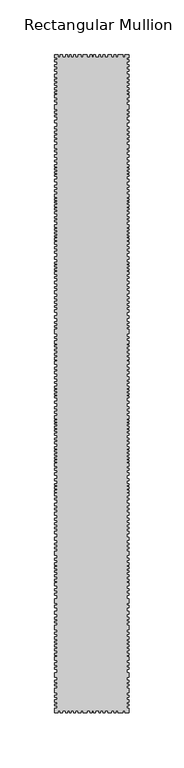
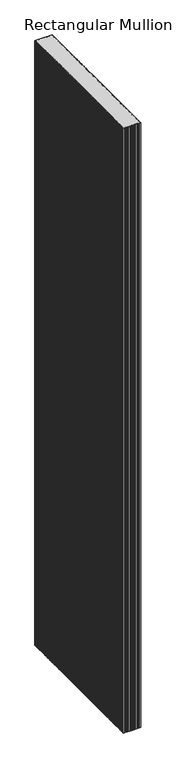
"""IFC4 building model written with IfcOpenShell, lengths in millimetres: member geometry, Rectangular Mullion : DucoSun Cubic Design louvre 600."""

from ifc_helpers import new_model, si_unit, frame, origin, place, context, project, spatial, polyline, outline, extrude, source, transform, mapped, element, save


def rectangular_mullion_c1c5a9d6(model_context):
    return source(origin(), model_context, "Body", "SweptSolid", [
        extrude(outline(polyline([(0.0, 597.3782451), (-2.0, 597.3782451), (-2.0, 595.4241521), (0.0, 595.4241521), (0.0, 593.6532553), (-2.0, 593.6532553), (-2.0, 590.9460223), (0.0, 590.9460223), (0.0, 588.9105087), (-2.0, 588.9105087), (-2.0, 586.7121541), (0.0, 586.7121541), (0.0, 585.0023227), (-2.0, 585.0023227), (-2.0, 582.3561551), (0.0, 582.3561551), (0.0, 579.3843053), (-2.0, 579.3843053), (-2.0, 577.8917893), (0.0, 577.8917893), (0.0, 575.8425117), (-2.0, 575.8425117), (-2.0, 573.8680636), (0.0, 573.8680636), (0.0, 572.1582322), (-2.0, 572.1582322), (-2.0, 570.0820083), (0.0, 570.0820083), (0.0, 568.3111116), (-2.0, 568.3111116), (-2.0, 566.4995045), (0.0, 566.4995045), (0.0, 565.0713495), (-2.0, 565.0713495), (-2.0, 563.4577392), (0.0, 563.4577392), (0.0, 561.0328231), (-2.0, 561.0328231), (-2.0, 558.5725067), (0.0, 558.5725067), (0.0, 557.0325964), (-2.0, 557.0325964), (-2.0, 554.5014796), (0.0, 554.5014796), (0.0, 550.4127524), (-2.0, 550.4127524), (-2.0, 548.4126391), (0.0, 548.4126391), (0.0, 546.8373286), (-2.0, 546.8373286), (-2.0, 544.9965163), (0.0, 544.9965163), (0.0, 543.3504053), (-2.0, 543.3504053), (-2.0, 540.3767855), (0.0, 540.3767855), (0.0, 537.9545244), (-2.0, 537.9545244), (-2.0, 534.5552168), (0.0, 534.5552168), (0.0, 532.5197032), (-2.0, 532.5197032), (-2.0, 530.239928), (0.0, 530.239928), (0.0, 528.6929377), (-2.0, 528.6929377), (-2.0, 526.4335177), (0.0, 526.4335177), (0.0, 524.5608452), (-2.0, 524.5608452), (-2.0, 522.6271073), (0.0, 522.6271073), (0.0, 520.5508835), (-2.0, 520.5508835), (-2.0, 518.0064916), (0.0, 518.0064916), (0.0, 514.9328661), (-2.0, 514.9328661), (-2.0, 512.9177077), (0.0, 512.9177077), (0.0, 511.4114277), (-2.0, 511.4114277), (-2.0, 508.9688114), (0.0, 508.9688114), (0.0, 506.7118273), (-2.0, 506.7118273), (-2.0, 503.8852623), (0.0, 503.8852623), (0.0, 502.4316003), (-2.0, 502.4316003), (-2.0, 499.9011516), (0.0, 499.9011516), (0.0, 497.8552569), (-2.0, 497.8552569), (-2.0, 496.6169522), (0.0, 496.6169522), (0.0, 495.0825312), (-2.0, 495.0825312), (-2.0, 493.4673512), (0.0, 493.4673512), (0.0, 492.0675286), (-2.0, 492.0675286), (-2.0, 490.5869469), (0.0, 490.5869469), (0.0, 489.1602046), (-2.0, 489.1602046), (-2.0, 486.3310055), (0.0, 486.3310055), (0.0, 484.2608252), (-2.0, 484.2608252), (-2.0, 481.1919832), (0.0, 481.1919832), (0.0, 479.2537672), (-2.0, 479.2537672), (-2.0, 476.9360418), (0.0, 476.9360418), (0.0, 475.0004598), (-2.0, 475.0004598), (-2.0, 472.9007258), (0.0, 472.9007258), (0.0, 470.1010805), (-2.0, 470.1010805), (-2.0, 468.8089365), (0.0, 468.8089365), (0.0, 467.3014351), (-2.0, 467.3014351), (-2.0, 466.0362108), (0.0, 466.0362108), (0.0, 465.0401831), (-2.0, 465.0401831), (-2.0, 463.2096458), (0.0, 463.2096458), (0.0, 461.6483051), (-2.0, 461.6483051), (-2.0, 460.1408038), (0.0, 460.1408038), (0.0, 458.6063828), (-2.0, 458.6063828), (-2.0, 457.0719618), (0.0, 457.0719618), (0.0, 455.0799064), (-2.0, 455.0799064), (-2.0, 452.3762692), (0.0, 452.3762692), (0.0, 450.8903036), (-2.0, 450.8903036), (-2.0, 449.1257194), (0.0, 449.1257194), (0.0, 447.6087962), (-2.0, 447.6087962), (-2.0, 444.8535683), (0.0, 444.8535683), (0.0, 442.7484504), (-2.0, 442.7484504), (-2.0, 441.4172729), (0.0, 441.4172729), (0.0, 439.9622649), (-2.0, 439.9622649), (-2.0, 438.3524688), (0.0, 438.3524688), (0.0, 436.8355456), (-2.0, 436.8355456), (-2.0, 435.1947919), (0.0, 435.1947919), (0.0, 433.9255296), (-2.0, 433.9255296), (-2.0, 432.5014792), (0.0, 432.5014792), (0.0, 431.1083865), (-2.0, 431.1083865), (-2.0, 429.6843361), (0.0, 429.6843361), (0.0, 427.0529387), (-2.0, 427.0529387), (-2.0, 424.9787784), (0.0, 424.9787784), (0.0, 423.0284485), (-2.0, 423.0284485), (-2.0, 420.7995001), (0.0, 420.7995001), (0.0, 418.8182126), (-2.0, 418.8182126), (-2.0, 415.6914933), (0.0, 415.6914933), (0.0, 413.4935025), (-2.0, 413.4935025), (-2.0, 410.954978), (0.0, 410.954978), (0.0, 409.4070971), (-2.0, 409.4070971), (-2.0, 408.1378348), (0.0, 408.1378348), (0.0, 406.4970812), (-2.0, 406.4970812), (-2.0, 404.8253698), (0.0, 404.8253698), (0.0, 403.3394042), (-2.0, 403.3394042), (-2.0, 402.0391843), (0.0, 402.0391843), (0.0, 400.0578969), (-2.0, 400.0578969), (-2.0, 397.6741604), (0.0, 397.6741604), (0.0, 396.0953219), (-2.0, 396.0953219), (-2.0, 393.3091364), (0.0, 393.3091364), (0.0, 391.0182728), (-2.0, 391.0182728), (-2.0, 388.572621), (0.0, 388.572621), (0.0, 387.1485707), (-2.0, 387.1485707), (-2.0, 385.0124951), (0.0, 385.0124951), (0.0, 382.1643944), (-2.0, 382.1643944), (-2.0, 379.3782089), (0.0, 379.3782089), (0.0, 377.427879), (-2.0, 377.427879), (-2.0, 375.4156339), (0.0, 375.4156339), (0.0, 373.6510498), (-2.0, 373.6510498), (-2.0, 371.1744404), (0.0, 371.1744404), (0.0, 369.6884748), (-2.0, 369.6884748), (-2.0, 367.5523993), (0.0, 367.5523993), (0.0, 365.4163237), (-2.0, 365.4163237), (-2.0, 362.1967316), (0.0, 362.1967316), (0.0, 359.5343765), (-2.0, 359.5343765), (-2.0, 356.7791486), (0.0, 356.7791486), (0.0, 355.0764797), (-2.0, 355.0764797), (-2.0, 352.9404041), (0.0, 352.9404041), (0.0, 351.6092266), (-2.0, 351.6092266), (-2.0, 349.5660239), (0.0, 349.5660239), (0.0, 345.512038), (-2.0, 345.512038), (-2.0, 343.0030092), (0.0, 343.0030092), (0.0, 341.3312979), (-2.0, 341.3312979), (-2.0, 339.0404342), (0.0, 339.0404342), (0.0, 336.5638249), (-2.0, 336.5638249), (-2.0, 335.015944), (0.0, 335.015944), (0.0, 333.5609361), (-2.0, 333.5609361), (-2.0, 331.5796486), (0.0, 331.5796486), (0.0, 330.0627254), (-2.0, 330.0627254), (-2.0, 327.8337769), (0.0, 327.8337769), (0.0, 326.1620656), (-2.0, 326.1620656), (-2.0, 324.0259901), (0.0, 324.0259901), (0.0, 322.0756602), (-2.0, 322.0756602), (-2.0, 320.6516099), (0.0, 320.6516099), (0.0, 317.7415939), (-2.0, 317.7415939), (-2.0, 315.2030693), (0.0, 315.2030693), (0.0, 313.1908242), (-2.0, 313.1908242), (-2.0, 311.2404944), (0.0, 311.2404944), (0.0, 309.1353764), (-2.0, 309.1353764), (-2.0, 306.2563181), (0.0, 306.2563181), (0.0, 303.7186411), (-2.0, 303.7186411), (-2.0, 301.7889994), (0.0, 301.7889994), (0.0, 300.3353374), (-2.0, 300.3353374), (-2.0, 297.8048887), (0.0, 297.8048887), (0.0, 295.758994), (-2.0, 295.758994), (-2.0, 294.5206893), (0.0, 294.5206893), (0.0, 292.9862683), (-2.0, 292.9862683), (-2.0, 291.3710883), (0.0, 291.3710883), (0.0, 289.9712657), (-2.0, 289.9712657), (-2.0, 288.490684), (0.0, 288.490684), (0.0, 287.0639417), (-2.0, 287.0639417), (-2.0, 284.2347426), (0.0, 284.2347426), (0.0, 282.1645623), (-2.0, 282.1645623), (-2.0, 279.0957203), (0.0, 279.0957203), (0.0, 277.1575043), (-2.0, 277.1575043), (-2.0, 274.8397789), (0.0, 274.8397789), (0.0, 272.9041969), (-2.0, 272.9041969), (-2.0, 270.8044629), (0.0, 270.8044629), (0.0, 268.0048176), (-2.0, 268.0048176), (-2.0, 266.7126736), (0.0, 266.7126736), (0.0, 265.2051722), (-2.0, 265.2051722), (-2.0, 263.9399479), (0.0, 263.9399479), (0.0, 262.9439202), (-2.0, 262.9439202), (-2.0, 261.1133829), (0.0, 261.1133829), (0.0, 259.5520422), (-2.0, 259.5520422), (-2.0, 258.0445409), (0.0, 258.0445409), (0.0, 256.5101199), (-2.0, 256.5101199), (-2.0, 254.9756989), (0.0, 254.9756989), (0.0, 252.9836435), (-2.0, 252.9836435), (-2.0, 250.2800063), (0.0, 250.2800063), (0.0, 248.7940407), (-2.0, 248.7940407), (-2.0, 247.0294565), (0.0, 247.0294565), (0.0, 245.5125333), (-2.0, 245.5125333), (-2.0, 242.7573054), (0.0, 242.7573054), (0.0, 240.6521875), (-2.0, 240.6521875), (-2.0, 239.32101), (0.0, 239.32101), (0.0, 237.866002), (-2.0, 237.866002), (-2.0, 236.2562059), (0.0, 236.2562059), (0.0, 234.7392827), (-2.0, 234.7392827), (-2.0, 233.098529), (0.0, 233.098529), (0.0, 231.8292667), (-2.0, 231.8292667), (-2.0, 230.4052163), (0.0, 230.4052163), (0.0, 229.0121236), (-2.0, 229.0121236), (-2.0, 227.5880732), (0.0, 227.5880732), (0.0, 224.9566758), (-2.0, 224.9566758), (-2.0, 222.8825155), (0.0, 222.8825155), (0.0, 220.9321856), (-2.0, 220.9321856), (-2.0, 218.7032372), (0.0, 218.7032372), (0.0, 216.7219497), (-2.0, 216.7219497), (-2.0, 213.5952304), (0.0, 213.5952304), (0.0, 211.3972396), (-2.0, 211.3972396), (-2.0, 208.8587151), (0.0, 208.8587151), (0.0, 207.3108342), (-2.0, 207.3108342), (-2.0, 206.0415719), (0.0, 206.0415719), (0.0, 204.4008183), (-2.0, 204.4008183), (-2.0, 202.7291069), (0.0, 202.7291069), (0.0, 201.2431413), (-2.0, 201.2431413), (-2.0, 199.9429214), (0.0, 199.9429214), (0.0, 197.961634), (-2.0, 197.961634), (-2.0, 195.5778975), (0.0, 195.5778975), (0.0, 193.999059), (-2.0, 193.999059), (-2.0, 191.2128735), (0.0, 191.2128735), (0.0, 188.9220099), (-2.0, 188.9220099), (-2.0, 186.4763581), (0.0, 186.4763581), (0.0, 185.0523078), (-2.0, 185.0523078), (-2.0, 182.9162322), (0.0, 182.9162322), (0.0, 180.0681315), (-2.0, 180.0681315), (-2.0, 177.281946), (0.0, 177.281946), (0.0, 175.3316161), (-2.0, 175.3316161), (-2.0, 173.319371), (0.0, 173.319371), (0.0, 171.5547869), (-2.0, 171.5547869), (-2.0, 169.0781775), (0.0, 169.0781775), (0.0, 167.5922119), (-2.0, 167.5922119), (-2.0, 165.4561364), (0.0, 165.4561364), (0.0, 163.3200608), (-2.0, 163.3200608), (-2.0, 160.1004687), (0.0, 160.1004687), (0.0, 157.4381136), (-2.0, 157.4381136), (-2.0, 154.6828857), (0.0, 154.6828857), (0.0, 152.9802168), (-2.0, 152.9802168), (-2.0, 150.8441412), (0.0, 150.8441412), (0.0, 149.5129637), (-2.0, 149.5129637), (-2.0, 147.469761), (0.0, 147.469761), (0.0, 143.4157751), (-2.0, 143.4157751), (-2.0, 140.9067463), (0.0, 140.9067463), (0.0, 139.235035), (-2.0, 139.235035), (-2.0, 136.9441713), (0.0, 136.9441713), (0.0, 134.467562), (-2.0, 134.467562), (-2.0, 132.9196811), (0.0, 132.9196811), (0.0, 131.4646731), (-2.0, 131.4646731), (-2.0, 129.4833857), (0.0, 129.4833857), (0.0, 127.9664625), (-2.0, 127.9664625), (-2.0, 125.737514), (0.0, 125.737514), (0.0, 124.0658027), (-2.0, 124.0658027), (-2.0, 121.9297272), (0.0, 121.9297272), (0.0, 119.9793973), (-2.0, 119.9793973), (-2.0, 118.555347), (0.0, 118.555347), (0.0, 115.645331), (-2.0, 115.645331), (-2.0, 113.1068064), (0.0, 113.1068064), (0.0, 111.0945613), (-2.0, 111.0945613), (-2.0, 109.1442315), (0.0, 109.1442315), (0.0, 107.0391135), (-2.0, 107.0391135), (-2.0, 104.0), (0.0, 104.0), (0.0, 100.0), (-2.0, 100.0), (-2.0, 97.8639244), (0.0, 97.8639244), (0.0, 95.7278489), (-2.0, 95.7278489), (-2.0, 92.5082567), (0.0, 92.5082567), (0.0, 89.8459017), (-2.0, 89.8459017), (-2.0, 87.0906738), (0.0, 87.0906738), (0.0, 85.3880049), (-2.0, 85.3880049), (-2.0, 83.2519293), (0.0, 83.2519293), (0.0, 81.9207518), (-2.0, 81.9207518), (-2.0, 79.8775491), (0.0, 79.8775491), (0.0, 75.8235632), (-2.0, 75.8235632), (-2.0, 73.3145343), (0.0, 73.3145343), (0.0, 71.642823), (-2.0, 71.642823), (-2.0, 69.3519594), (0.0, 69.3519594), (0.0, 66.8753501), (-2.0, 66.8753501), (-2.0, 65.3274692), (0.0, 65.3274692), (0.0, 63.8724612), (-2.0, 63.8724612), (-2.0, 61.8911738), (0.0, 61.8911738), (0.0, 60.3742505), (-2.0, 60.3742505), (-2.0, 58.1453021), (0.0, 58.1453021), (0.0, 56.4735908), (-2.0, 56.4735908), (-2.0, 54.3375153), (0.0, 54.3375153), (0.0, 52.3871854), (-2.0, 52.3871854), (-2.0, 50.963135), (0.0, 50.963135), (0.0, 48.0531191), (-2.0, 48.0531191), (-2.0, 45.5145945), (0.0, 45.5145945), (0.0, 43.5023494), (-2.0, 43.5023494), (-2.0, 41.5520195), (0.0, 41.5520195), (0.0, 39.4469016), (-2.0, 39.4469016), (-2.0, 36.4077881), (0.0, 36.4077881), (0.0, 32.4077881), (-2.0, 32.4077881), (-2.0, 29.6525602), (0.0, 29.6525602), (0.0, 27.9498913), (-2.0, 27.9498913), (-2.0, 25.8138157), (0.0, 25.8138157), (0.0, 24.4826382), (-2.0, 24.4826382), (-2.0, 22.4394355), (0.0, 22.4394355), (0.0, 18.3854496), (-2.0, 18.3854496), (-2.0, 15.8764207), (0.0, 15.8764207), (0.0, 14.2047094), (-2.0, 14.2047094), (-2.0, 11.9138458), (0.0, 11.9138458), (0.0, 9.4372364), (-2.0, 9.4372364), (-2.0, 7.8893556), (0.0, 7.8893556), (0.0, 6.4343476), (-2.0, 6.4343476), (-2.0, 4.0), (0.0, 4.0), (0.0, 0.0), (-3.5455586, 0.0), (-3.5455586, 2.0), (-5.372058, 2.0), (-5.372058, 0.0), (-10.0157006, 0.0), (-10.0157006, 2.0), (-12.1827337, 2.0), (-12.1827337, 0.0), (-13.6996569, 0.0), (-13.6996569, 2.0), (-16.0524358, 2.0), (-16.0524358, 0.0), (-19.1172399, 0.0), (-19.1172399, 2.0), (-21.9034254, 2.0), (-21.9034254, 0.0), (-23.6060943, 0.0), (-23.6060943, 2.0), (-25.9898308, 2.0), (-25.9898308, 0.0), (-27.4757964, 0.0), (-27.4757964, 2.0), (-30.5115322, 2.0), (-30.5115322, 0.0), (-32.2905711, 0.0), (-32.2905711, 2.0), (-34.0, 2.0), (-34.0, 0.0), (-35.8486488, 0.0), (-35.8486488, 2.0), (-38.2128978, 2.0), (-38.2128978, 0.0), (-41.9816511, 0.0), (-41.9816511, 2.0), (-44.0415908, 2.0), (-44.0415908, 0.0), (-46.7335575, 0.0), (-46.7335575, 2.0), (-49.0041729, 2.0), (-49.0041729, 0.0), (-50.8768453, 0.0), (-50.8768453, 2.0), (-52.9367851, 2.0), (-52.9367851, 0.0), (-54.2710642, 0.0), (-54.2710642, 2.0), (-56.3075955, 2.0), (-56.3075955, 0.0), (-57.8993671, 0.0), (-57.8993671, 2.0), (-60.9658683, 2.0), (-60.9658683, 0.0), (-62.9321744, 0.0), (-62.9321744, 2.0), (-64.8750721, 2.0), (-64.8750721, 0.0), (-68.0, 0.0), (-68.0, 4.0), (-66.0, 4.0), (-66.0, 6.4343476), (-68.0, 6.4343476), (-68.0, 7.8893556), (-66.0, 7.8893556), (-66.0, 9.4372364), (-68.0, 9.4372364), (-68.0, 11.9138458), (-66.0, 11.9138458), (-66.0, 14.2047094), (-68.0, 14.2047094), (-68.0, 15.8764207), (-66.0, 15.8764207), (-66.0, 18.3854496), (-68.0, 18.3854496), (-68.0, 22.4394355), (-66.0, 22.4394355), (-66.0, 24.4826382), (-68.0, 24.4826382), (-68.0, 25.8138157), (-66.0, 25.8138157), (-66.0, 27.9498913), (-68.0, 27.9498913), (-68.0, 29.6525602), (-66.0, 29.6525602), (-66.0, 32.4077881), (-68.0, 32.4077881), (-68.0, 36.4077881), (-66.0, 36.4077881), (-66.0, 39.4469016), (-68.0, 39.4469016), (-68.0, 41.5520195), (-66.0, 41.5520195), (-66.0, 43.5023494), (-68.0, 43.5023494), (-68.0, 45.5145945), (-66.0, 45.5145945), (-66.0, 48.0531191), (-68.0, 48.0531191), (-68.0, 50.963135), (-66.0, 50.963135), (-66.0, 52.3871854), (-68.0, 52.3871854), (-68.0, 54.3375153), (-66.0, 54.3375153), (-66.0, 56.4735908), (-68.0, 56.4735908), (-68.0, 58.1453021), (-66.0, 58.1453021), (-66.0, 60.3742505), (-68.0, 60.3742505), (-68.0, 61.8911738), (-66.0, 61.8911738), (-66.0, 63.8724612), (-68.0, 63.8724612), (-68.0, 65.3274692), (-66.0, 65.3274692), (-66.0, 66.8753501), (-68.0, 66.8753501), (-68.0, 69.3519594), (-66.0, 69.3519594), (-66.0, 71.642823), (-68.0, 71.642823), (-68.0, 73.3145343), (-66.0, 73.3145343), (-66.0, 75.8235632), (-68.0, 75.8235632), (-68.0, 79.8775491), (-66.0, 79.8775491), (-66.0, 81.9207518), (-68.0, 81.9207518), (-68.0, 83.2519293), (-66.0, 83.2519293), (-66.0, 85.3880049), (-68.0, 85.3880049), (-68.0, 87.0906738), (-66.0, 87.0906738), (-66.0, 89.8459017), (-68.0, 89.8459017), (-68.0, 92.5082567), (-66.0, 92.5082567), (-66.0, 95.7278489), (-68.0, 95.7278489), (-68.0, 97.8639244), (-66.0, 97.8639244), (-66.0, 100.0), (-68.0, 100.0), (-68.0, 104.0), (-66.0, 104.0), (-66.0, 107.0391135), (-68.0, 107.0391135), (-68.0, 109.1442315), (-66.0, 109.1442315), (-66.0, 111.0945613), (-68.0, 111.0945613), (-68.0, 113.1068064), (-66.0, 113.1068064), (-66.0, 115.645331), (-68.0, 115.645331), (-68.0, 118.555347), (-66.0, 118.555347), (-66.0, 119.9793973), (-68.0, 119.9793973), (-68.0, 121.9297272), (-66.0, 121.9297272), (-66.0, 124.0658027), (-68.0, 124.0658027), (-68.0, 125.737514), (-66.0, 125.737514), (-66.0, 127.9664625), (-68.0, 127.9664625), (-68.0, 129.4833857), (-66.0, 129.4833857), (-66.0, 131.4646731), (-68.0, 131.4646731), (-68.0, 132.9196811), (-66.0, 132.9196811), (-66.0, 134.467562), (-68.0, 134.467562), (-68.0, 136.9441713), (-66.0, 136.9441713), (-66.0, 139.235035), (-68.0, 139.235035), (-68.0, 140.9067463), (-66.0, 140.9067463), (-66.0, 143.4157751), (-68.0, 143.4157751), (-68.0, 147.469761), (-66.0, 147.469761), (-66.0, 149.5129637), (-68.0, 149.5129637), (-68.0, 150.8441412), (-66.0, 150.8441412), (-66.0, 152.9802168), (-68.0, 152.9802168), (-68.0, 154.6828857), (-66.0, 154.6828857), (-66.0, 157.4381136), (-68.0, 157.4381136), (-68.0, 160.1004687), (-66.0, 160.1004687), (-66.0, 163.3200608), (-68.0, 163.3200608), (-68.0, 165.4561364), (-66.0, 165.4561364), (-66.0, 167.5922119), (-68.0, 167.5922119), (-68.0, 169.0781775), (-66.0, 169.0781775), (-66.0, 171.5547869), (-68.0, 171.5547869), (-68.0, 173.319371), (-66.0, 173.319371), (-66.0, 175.3316161), (-68.0, 175.3316161), (-68.0, 177.281946), (-66.0, 177.281946), (-66.0, 180.0681315), (-68.0, 180.0681315), (-68.0, 182.9162322), (-66.0, 182.9162322), (-66.0, 185.0523078), (-68.0, 185.0523078), (-68.0, 186.4763581), (-66.0, 186.4763581), (-66.0, 188.9220099), (-68.0, 188.9220099), (-68.0, 191.2128735), (-66.0, 191.2128735), (-66.0, 193.999059), (-68.0, 193.999059), (-68.0, 195.5778975), (-66.0, 195.5778975), (-66.0, 197.961634), (-68.0, 197.961634), (-68.0, 199.9429214), (-66.0, 199.9429214), (-66.0, 201.2431413), (-68.0, 201.2431413), (-68.0, 202.7291069), (-66.0, 202.7291069), (-66.0, 204.4008183), (-68.0, 204.4008183), (-68.0, 206.0415719), (-66.0, 206.0415719), (-66.0, 207.3108342), (-68.0, 207.3108342), (-68.0, 208.8587151), (-66.0, 208.8587151), (-66.0, 211.3972396), (-68.0, 211.3972396), (-68.0, 213.5952304), (-66.0, 213.5952304), (-66.0, 216.7219497), (-68.0, 216.7219497), (-68.0, 218.7032372), (-66.0, 218.7032372), (-66.0, 220.9321856), (-68.0, 220.9321856), (-68.0, 222.8825155), (-66.0, 222.8825155), (-66.0, 224.9566758), (-68.0, 224.9566758), (-68.0, 227.5880732), (-66.0, 227.5880732), (-66.0, 229.0121236), (-68.0, 229.0121236), (-68.0, 230.4052163), (-66.0, 230.4052163), (-66.0, 231.8292667), (-68.0, 231.8292667), (-68.0, 233.098529), (-66.0, 233.098529), (-66.0, 234.7392827), (-68.0, 234.7392827), (-68.0, 236.2562059), (-66.0, 236.2562059), (-66.0, 237.866002), (-68.0, 237.866002), (-68.0, 239.32101), (-66.0, 239.32101), (-66.0, 240.6521875), (-68.0, 240.6521875), (-68.0, 242.7573054), (-66.0, 242.7573054), (-66.0, 245.5125333), (-68.0, 245.5125333), (-68.0, 247.0294565), (-66.0, 247.0294565), (-66.0, 248.7940407), (-68.0, 248.7940407), (-68.0, 250.2800063), (-66.0, 250.2800063), (-66.0, 252.9836435), (-68.0, 252.9836435), (-68.0, 254.9756989), (-66.0, 254.9756989), (-66.0, 256.5101199), (-68.0, 256.5101199), (-68.0, 258.0445409), (-66.0, 258.0445409), (-66.0, 259.5520422), (-68.0, 259.5520422), (-68.0, 261.1133829), (-66.0, 261.1133829), (-66.0, 262.9439202), (-68.0, 262.9439202), (-68.0, 263.9399479), (-66.0, 263.9399479), (-66.0, 265.2051722), (-68.0, 265.2051722), (-68.0, 266.7126736), (-66.0, 266.7126736), (-66.0, 268.0048176), (-68.0, 268.0048176), (-68.0, 270.8044629), (-66.0, 270.8044629), (-66.0, 272.9041969), (-68.0, 272.9041969), (-68.0, 274.8397789), (-66.0, 274.8397789), (-66.0, 277.1575043), (-68.0, 277.1575043), (-68.0, 279.0957203), (-66.0, 279.0957203), (-66.0, 282.1645623), (-68.0, 282.1645623), (-68.0, 284.2347426), (-66.0, 284.2347426), (-66.0, 287.0639417), (-68.0, 287.0639417), (-68.0, 288.490684), (-66.0, 288.490684), (-66.0, 289.9712657), (-68.0, 289.9712657), (-68.0, 291.3710883), (-66.0, 291.3710883), (-66.0, 292.9862683), (-68.0, 292.9862683), (-68.0, 294.5206893), (-66.0, 294.5206893), (-66.0, 295.758994), (-68.0, 295.758994), (-68.0, 297.8048887), (-66.0, 297.8048887), (-66.0, 300.3353374), (-68.0, 300.3353374), (-68.0, 301.7889994), (-66.0, 301.7889994), (-66.0, 304.6155644), (-68.0, 304.6155644), (-68.0, 306.2563181), (-66.0, 306.2563181), (-66.0, 309.1353764), (-68.0, 309.1353764), (-68.0, 311.2404944), (-66.0, 311.2404944), (-66.0, 313.1908242), (-68.0, 313.1908242), (-68.0, 315.2030693), (-66.0, 315.2030693), (-66.0, 317.7415939), (-68.0, 317.7415939), (-68.0, 320.6516099), (-66.0, 320.6516099), (-66.0, 322.0756602), (-68.0, 322.0756602), (-68.0, 324.0259901), (-66.0, 324.0259901), (-66.0, 326.1620656), (-68.0, 326.1620656), (-68.0, 327.8337769), (-66.0, 327.8337769), (-66.0, 330.0627254), (-68.0, 330.0627254), (-68.0, 331.5796486), (-66.0, 331.5796486), (-66.0, 333.5609361), (-68.0, 333.5609361), (-68.0, 335.015944), (-66.0, 335.015944), (-66.0, 336.5638249), (-68.0, 336.5638249), (-68.0, 339.0404342), (-66.0, 339.0404342), (-66.0, 341.3312979), (-68.0, 341.3312979), (-68.0, 343.0030092), (-66.0, 343.0030092), (-66.0, 345.512038), (-68.0, 345.512038), (-68.0, 349.5660239), (-66.0, 349.5660239), (-66.0, 351.6092266), (-68.0, 351.6092266), (-68.0, 352.9404041), (-66.0, 352.9404041), (-66.0, 355.0764797), (-68.0, 355.0764797), (-68.0, 356.7791486), (-66.0, 356.7791486), (-66.0, 359.5343765), (-68.0, 359.5343765), (-68.0, 362.1967316), (-66.0, 362.1967316), (-66.0, 365.4163237), (-68.0, 365.4163237), (-68.0, 367.5523993), (-66.0, 367.5523993), (-66.0, 369.6884748), (-68.0, 369.6884748), (-68.0, 371.1744404), (-66.0, 371.1744404), (-66.0, 373.6510498), (-68.0, 373.6510498), (-68.0, 375.4156339), (-66.0, 375.4156339), (-66.0, 377.427879), (-68.0, 377.427879), (-68.0, 379.3782089), (-66.0, 379.3782089), (-66.0, 382.1643944), (-68.0, 382.1643944), (-68.0, 385.0124951), (-66.0, 385.0124951), (-66.0, 387.1485707), (-68.0, 387.1485707), (-68.0, 388.572621), (-66.0, 388.572621), (-66.0, 391.0182728), (-68.0, 391.0182728), (-68.0, 393.3091364), (-66.0, 393.3091364), (-66.0, 396.0953219), (-68.0, 396.0953219), (-68.0, 397.6741604), (-66.0, 397.6741604), (-66.0, 400.0578969), (-68.0, 400.0578969), (-68.0, 402.0391843), (-66.0, 402.0391843), (-66.0, 403.3394042), (-68.0, 403.3394042), (-68.0, 404.8253698), (-66.0, 404.8253698), (-66.0, 406.4970812), (-68.0, 406.4970812), (-68.0, 408.1378348), (-66.0, 408.1378348), (-66.0, 409.4070971), (-68.0, 409.4070971), (-68.0, 410.954978), (-66.0, 410.954978), (-66.0, 413.4935025), (-68.0, 413.4935025), (-68.0, 415.6914933), (-66.0, 415.6914933), (-66.0, 418.8182126), (-68.0, 418.8182126), (-68.0, 420.7995001), (-66.0, 420.7995001), (-66.0, 423.0284485), (-68.0, 423.0284485), (-68.0, 424.9787784), (-66.0, 424.9787784), (-66.0, 427.0529387), (-68.0, 427.0529387), (-68.0, 429.6843361), (-66.0, 429.6843361), (-66.0, 431.1083865), (-68.0, 431.1083865), (-68.0, 432.5014792), (-66.0, 432.5014792), (-66.0, 433.9255296), (-68.0, 433.9255296), (-68.0, 435.1947919), (-66.0, 435.1947919), (-66.0, 436.8355456), (-68.0, 436.8355456), (-68.0, 438.3524688), (-66.0, 438.3524688), (-66.0, 439.9622649), (-68.0, 439.9622649), (-68.0, 441.4172729), (-66.0, 441.4172729), (-66.0, 442.7484504), (-68.0, 442.7484504), (-68.0, 444.8535683), (-66.0, 444.8535683), (-66.0, 447.6087962), (-68.0, 447.6087962), (-68.0, 449.1257194), (-66.0, 449.1257194), (-66.0, 450.8903036), (-68.0, 450.8903036), (-68.0, 452.3762692), (-66.0, 452.3762692), (-66.0, 455.0799064), (-68.0, 455.0799064), (-68.0, 457.0719618), (-66.0, 457.0719618), (-66.0, 458.6063828), (-68.0, 458.6063828), (-68.0, 460.1408038), (-66.0, 460.1408038), (-66.0, 461.6483051), (-68.0, 461.6483051), (-68.0, 463.2096458), (-66.0, 463.2096458), (-66.0, 465.0401831), (-68.0, 465.0401831), (-68.0, 466.0362108), (-66.0, 466.0362108), (-66.0, 467.3014351), (-68.0, 467.3014351), (-68.0, 468.8089365), (-66.0, 468.8089365), (-66.0, 470.1010805), (-68.0, 470.1010805), (-68.0, 472.9007258), (-66.0, 472.9007258), (-66.0, 475.0004598), (-68.0, 475.0004598), (-68.0, 476.9360418), (-66.0, 476.9360418), (-66.0, 479.2537672), (-68.0, 479.2537672), (-68.0, 481.1919832), (-66.0, 481.1919832), (-66.0, 484.2608252), (-68.0, 484.2608252), (-68.0, 486.3310055), (-66.0, 486.3310055), (-66.0, 489.1602046), (-68.0, 489.1602046), (-68.0, 490.5869469), (-66.0, 490.5869469), (-66.0, 492.0675286), (-68.0, 492.0675286), (-68.0, 493.4673512), (-66.0, 493.4673512), (-66.0, 495.0825312), (-68.0, 495.0825312), (-68.0, 496.6169522), (-66.0, 496.6169522), (-66.0, 497.8552569), (-68.0, 497.8552569), (-68.0, 499.9011516), (-66.0, 499.9011516), (-66.0, 502.4316003), (-68.0, 502.4316003), (-68.0, 503.8852623), (-66.0, 503.8852623), (-66.0, 506.7118273), (-68.0, 506.7118273), (-68.0, 508.9688114), (-66.0, 508.9688114), (-66.0, 511.4114277), (-68.0, 511.4114277), (-68.0, 512.9177077), (-66.0, 512.9177077), (-66.0, 514.9328661), (-68.0, 514.9328661), (-68.0, 518.0064916), (-66.0, 518.0064916), (-66.0, 520.5508835), (-68.0, 520.5508835), (-68.0, 522.6271073), (-66.0, 522.6271073), (-66.0, 524.5608452), (-68.0, 524.5608452), (-68.0, 526.4335177), (-66.0, 526.4335177), (-66.0, 528.6929377), (-68.0, 528.6929377), (-68.0, 530.239928), (-66.0, 530.239928), (-66.0, 532.5197032), (-68.0, 532.5197032), (-68.0, 534.5552168), (-66.0, 534.5552168), (-66.0, 537.9545244), (-68.0, 537.9545244), (-68.0, 540.3767855), (-66.0, 540.3767855), (-66.0, 543.3504053), (-68.0, 543.3504053), (-68.0, 544.9965163), (-66.0, 544.9965163), (-66.0, 546.8373286), (-68.0, 546.8373286), (-68.0, 548.4126391), (-66.0, 548.4126391), (-66.0, 550.4127524), (-68.0, 550.4127524), (-68.0, 554.5014796), (-66.0, 554.5014796), (-66.0, 557.0325964), (-68.0, 557.0325964), (-68.0, 558.5725067), (-66.0, 558.5725067), (-66.0, 561.0328231), (-68.0, 561.0328231), (-68.0, 563.4577392), (-66.0, 563.4577392), (-66.0, 565.0713495), (-68.0, 565.0713495), (-68.0, 566.4995045), (-66.0, 566.4995045), (-66.0, 568.3111116), (-68.0, 568.3111116), (-68.0, 570.0820083), (-66.0, 570.0820083), (-66.0, 572.1582322), (-68.0, 572.1582322), (-68.0, 573.8680636), (-66.0, 573.8680636), (-66.0, 575.8425117), (-68.0, 575.8425117), (-68.0, 577.8917893), (-66.0, 577.8917893), (-66.0, 579.3843053), (-68.0, 579.3843053), (-68.0, 582.3561551), (-66.0, 582.3561551), (-66.0, 585.0023227), (-68.0, 585.0023227), (-68.0, 586.7121541), (-66.0, 586.7121541), (-66.0, 588.9105087), (-68.0, 588.9105087), (-68.0, 590.9460223), (-66.0, 590.9460223), (-66.0, 593.6532553), (-68.0, 593.6532553), (-68.0, 595.4241521), (-66.0, 595.4241521), (-66.0, 597.3782451), (-68.0, 597.3782451), (-68.0, 600.0), (-64.8750721, 600.0), (-64.8750721, 598.0), (-62.9321744, 598.0), (-62.9321744, 600.0), (-60.9658683, 600.0), (-60.9658683, 598.0), (-57.8993671, 598.0), (-57.8993671, 600.0), (-56.3075955, 600.0), (-56.3075955, 598.0), (-54.2710642, 598.0), (-54.2710642, 600.0), (-52.9367851, 600.0), (-52.9367851, 598.0), (-50.8768453, 598.0), (-50.8768453, 600.0), (-49.0041729, 600.0), (-49.0041729, 598.0), (-46.7335575, 598.0), (-46.7335575, 600.0), (-44.0415908, 600.0), (-44.0415908, 598.0), (-41.9816511, 598.0), (-41.9816511, 600.0), (-38.2128978, 600.0), (-38.2128978, 598.0), (-35.8486488, 598.0), (-35.8486488, 600.0), (-34.0, 600.0), (-34.0, 598.0), (-32.2905711, 598.0), (-32.2905711, 600.0), (-30.5115322, 600.0), (-30.5115322, 598.0), (-27.4757964, 598.0), (-27.4757964, 600.0), (-25.9898308, 600.0), (-25.9898308, 598.0), (-23.6060943, 598.0), (-23.6060943, 600.0), (-21.9034254, 600.0), (-21.9034254, 598.0), (-19.1172399, 598.0), (-19.1172399, 600.0), (-16.0524358, 600.0), (-16.0524358, 598.0), (-13.6996569, 598.0), (-13.6996569, 600.0), (-12.1827337, 600.0), (-12.1827337, 598.0), (-10.0157006, 598.0), (-10.0157006, 600.0), (-5.372058, 600.0), (-5.372058, 598.0), (-3.5455586, 598.0), (-3.5455586, 600.0), (0.0, 600.0), (0.0, 597.3782451)])), frame((0.0, 0.0, -2500.0), z_axis=(0.0, 0.0, 1.0), x_axis=(1.0, 0.0, 0.0)), (0.0, 0.0, 1.0), 2500.0),
    ])


if __name__ == "__main__":
    model = new_model("IFC4")
    model_context = context("Model", 3, world=origin())
    ifc_project = project(units=[si_unit("LENGTHUNIT", "METRE", prefix="MILLI")], contexts=[model_context])
    site = spatial("IfcSite", under=ifc_project)
    building = spatial("IfcBuilding", under=site)
    placement = place(None, origin())
    rectangular_mullion_shape = rectangular_mullion_c1c5a9d6(model_context)
    element("IfcMember", 1, ObjectType="Rectangular Mullion : DucoSun Cubic Design louvre 600", at=placement, inside=building, context=model_context, shape_type="MappedRepresentation", body=[
        mapped(rectangular_mullion_shape, transform((0.0, 0.0, 0.0), x_axis=(1.0, 0.0, 0.0), y_axis=(0.0, 1.0, 0.0), z_axis=(0.0, 0.0, 1.0))),
    ])
    save(model, "model.ifc")
